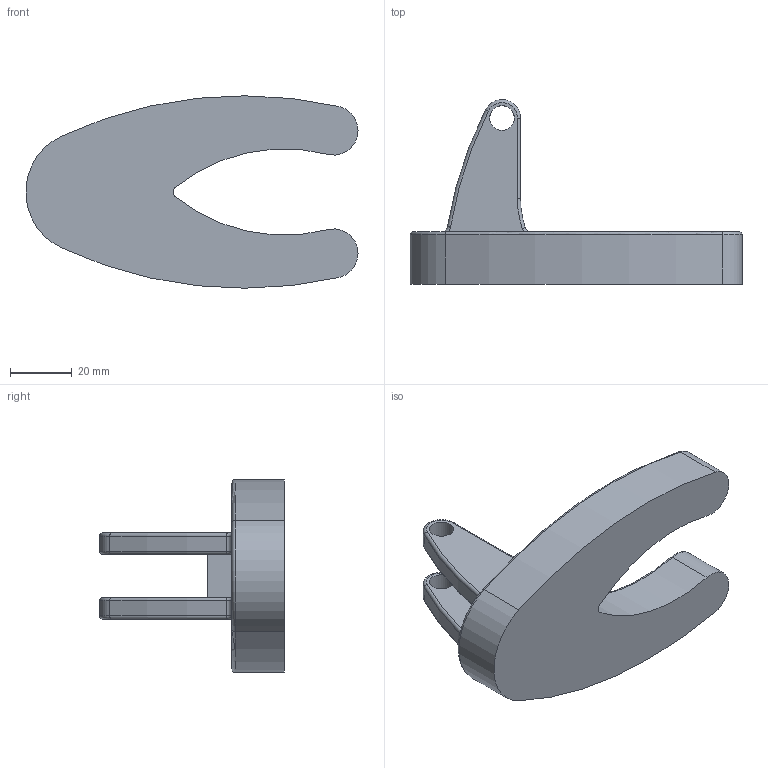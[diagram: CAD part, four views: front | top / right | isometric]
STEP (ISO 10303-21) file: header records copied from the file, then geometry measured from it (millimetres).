
FILE_DESCRIPTION(/* description */ ('Основание'),/* implementation_level */ '2;1');
FILE_NAME(/* name */ 'D:\ \Работа\JuniorSkills\2018\ОтборочныйЗадание\Микроскоп\STEP\Основание.stp',/* time_stamp */ '2017-11-09T06:44:44+07:00',/* author */ ('Andrey'),/* organization */ (''),/* preprocessor_version */ 'ST-DEVELOPER v15.6',/* originating_system */ 'Autodesk Inventor 2015',/* authorisation */ '');
FILE_SCHEMA (('AUTOMOTIVE_DESIGN { 1 0 10303 214 3 1 1 }'));
Length unit declared in the file: millimetre
Products named in the file (1): Основание
Bounding box: 107.92 x 59.99 x 62.55 mm (x, y, z)
Volume: 83986.1 mm3; surface area: 19346.6 mm2
Topology: 1 solids, 1 shells, 63 faces, 152 edges, 92 vertices
Faces by surface type: torus 28, cylinder 24, plane 11
Full cylindrical faces by diameter (mm): 8 x2
Entity records: 1904 total; most frequent: DIRECTION 366, CARTESIAN_POINT 346, ORIENTED_EDGE 300, AXIS2_PLACEMENT_3D 160, EDGE_CURVE 150, CIRCLE 96, VERTEX_POINT 92, EDGE_LOOP 70
